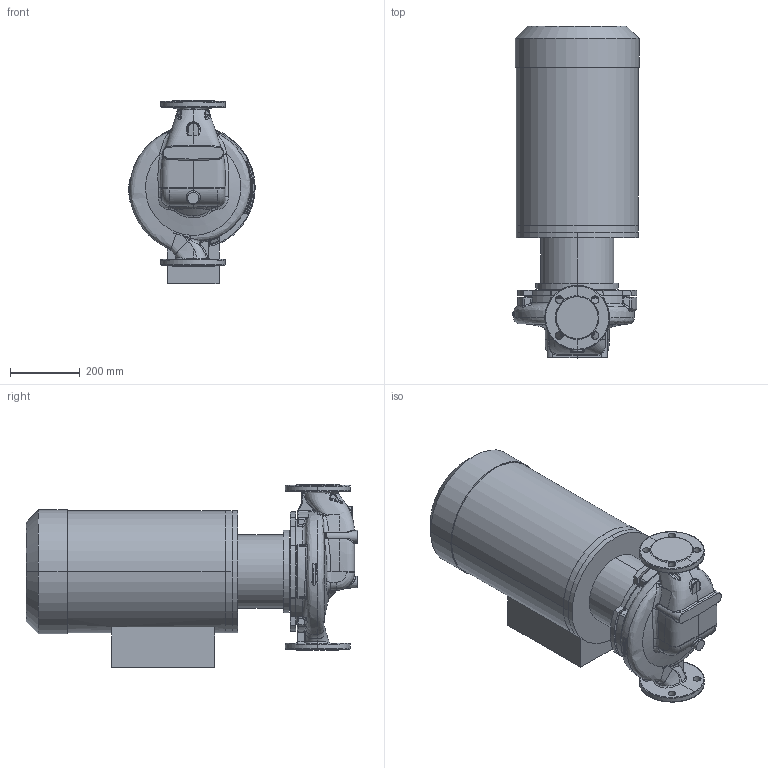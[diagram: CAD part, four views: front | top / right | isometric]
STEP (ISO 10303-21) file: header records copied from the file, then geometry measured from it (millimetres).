
FILE_DESCRIPTION (( 'STEP AP214' ), '1' );
FILE_NAME ('KRL 65-250-2-22.STEP', '2026-03-23T09:53:45', ( '' ), ( '' ), 'SwSTEP 2.0', 'SolidWorks 2016', '' );
FILE_SCHEMA (( 'AUTOMOTIVE_DESIGN' ));
Length unit declared in the file: millimetre
Products named in the file (1): KRL 65-250-2-22
Bounding box: 361.92 x 950.3 x 525 mm (x, y, z)
Volume: 82238951 mm3; surface area: 1962215.5 mm2
Topology: 4 solids, 4 shells, 621 faces, 1547 edges, 931 vertices
Faces by surface type: bspline 283, cylinder 133, plane 103, cone 43, torus 31, sphere 28
Entity records: 64465 total; most frequent: CARTESIAN_POINT 45456, ORIENTED_EDGE 3058, DIRECTION 1859, EDGE_CURVE 1529, VERTEX_POINT 931, AXIS2_PLACEMENT_3D 797, EDGE_LOOP 652, B_SPLINE_CURVE_WITH_KNOTS 650
